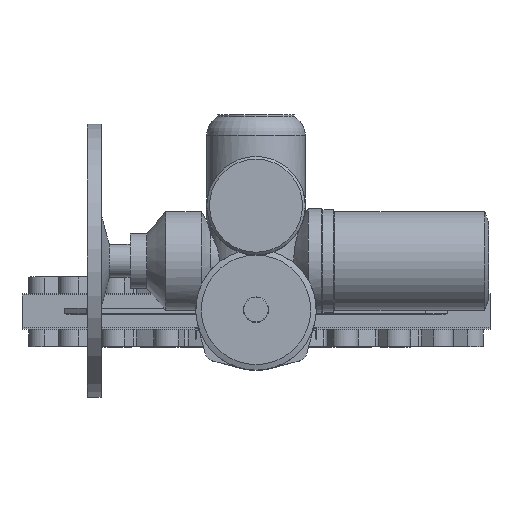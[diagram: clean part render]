
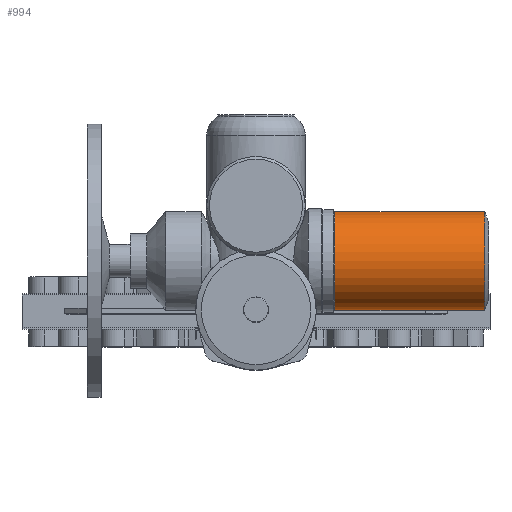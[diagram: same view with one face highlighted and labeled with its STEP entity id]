
A CAD part, top view. The second image highlights one B-rep face of the part: STEP entity #994.
In plain terms, the highlighted cylindrical face has radius 90 mm (diameter 180 mm), a full revolution.
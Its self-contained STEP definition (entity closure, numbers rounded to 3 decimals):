
#994=ADVANCED_FACE('',(#1994,#1996),#1998,.T.);
#1994=FACE_OUTER_BOUND('',#1995,.T.);
#1995=EDGE_LOOP('',(#5265));
#1996=FACE_OUTER_BOUND('',#1997,.T.);
#1997=EDGE_LOOP('',(#5266));
#1998=CYLINDRICAL_SURFACE('',#1999,90.);
#1999=AXIS2_PLACEMENT_3D('',#2000,#2001,#2002);
#2000=CARTESIAN_POINT('',(417.721,90.,1917.));
#2001=DIRECTION('',(-1.,0.,0.));
#2002=DIRECTION('',(0.,0.,1.));
#5265=ORIENTED_EDGE('',*,*,#7824,.T.);
#5266=ORIENTED_EDGE('',*,*,#7822,.F.);
#7822=EDGE_CURVE('',#9790,#9790,#9791,.T.);
#7824=EDGE_CURVE('',#9794,#9794,#9795,.T.);
#9790=VERTEX_POINT('',#12611);
#9791=CIRCLE('',#12612,90.);
#9794=VERTEX_POINT('',#12621);
#9795=CIRCLE('',#12622,90.);
#12611=CARTESIAN_POINT('',(143.811,90.,2007.));
#12612=AXIS2_PLACEMENT_3D('',#12613,#12614,#12615);
#12613=CARTESIAN_POINT('',(143.811,90.,1917.));
#12614=DIRECTION('',(-1.,0.,0.));
#12615=DIRECTION('',(0.,0.,1.));
#12621=CARTESIAN_POINT('',(417.721,90.,2007.));
#12622=AXIS2_PLACEMENT_3D('',#12623,#12624,#12625);
#12623=CARTESIAN_POINT('',(417.721,90.,1917.));
#12624=DIRECTION('',(-1.,0.,0.));
#12625=DIRECTION('',(0.,0.,1.));
